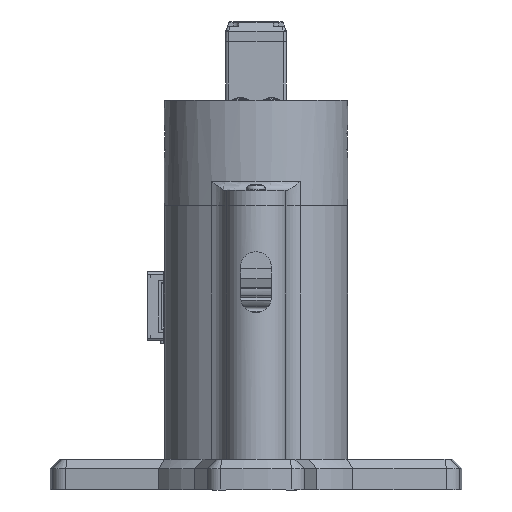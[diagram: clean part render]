
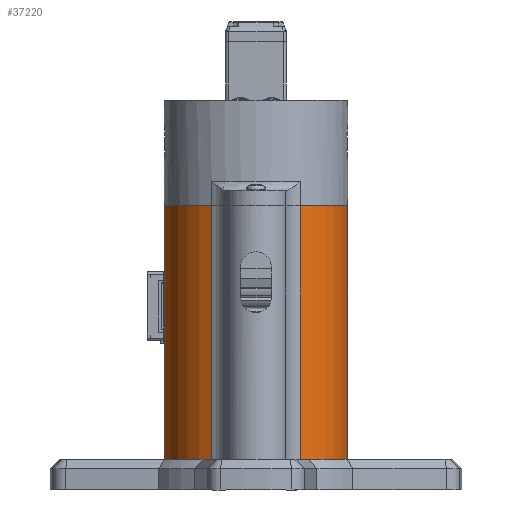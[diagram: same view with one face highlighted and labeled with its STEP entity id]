
A CAD part, left-side view. The second image highlights one B-rep face of the part: STEP entity #37220.
In plain terms, the highlighted cylindrical face has radius 30 mm (diameter 60 mm), a partial arc.
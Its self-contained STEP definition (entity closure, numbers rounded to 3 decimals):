
#2060=FACE_BOUND('',#5182,.T.);
#2351=B_SPLINE_CURVE_WITH_KNOTS('',3,(#53311,#53312,#53313,#53314,#53315,
#53316,#53317,#53318,#53319,#53320),.UNSPECIFIED.,.F.,.F.,(4,2,2,2,4),(0.755,
0.944,1.132,1.321,1.51),
 .UNSPECIFIED.);
#2352=B_SPLINE_CURVE_WITH_KNOTS('',3,(#53322,#53323,#53324,#53325,#53326,
#53327,#53328,#53329,#53330,#53331),.UNSPECIFIED.,.F.,.F.,(4,2,2,2,4),(1.51,
1.699,1.887,2.076,2.265),
 .UNSPECIFIED.);
#2353=B_SPLINE_CURVE_WITH_KNOTS('',3,(#53338,#53339,#53340,#53341,#53342,
#53343,#53344,#53345,#53346,#53347),.UNSPECIFIED.,.F.,.F.,(4,2,2,2,4),(1.51,
1.699,1.887,2.076,2.265),
 .UNSPECIFIED.);
#2354=B_SPLINE_CURVE_WITH_KNOTS('',3,(#53348,#53349,#53350,#53351,#53352,
#53353,#53354,#53355,#53356,#53357),.UNSPECIFIED.,.F.,.F.,(4,2,2,2,4),(-0.755,
-0.566,-0.377,-0.189,0.),
 .UNSPECIFIED.);
#3233=FACE_OUTER_BOUND('',#5181,.T.);
#5181=EDGE_LOOP('',(#25350,#25351,#25352,#25353));
#5182=EDGE_LOOP('',(#25354,#25355,#25356,#25357,#25358,#25359));
#7402=LINE('',#53307,#10737);
#7404=LINE('',#53334,#10739);
#7416=LINE('',#53429,#10751);
#7418=LINE('',#53437,#10753);
#10737=VECTOR('',#43096,10.);
#10739=VECTOR('',#43102,10.);
#10751=VECTOR('',#43134,10.);
#10753=VECTOR('',#43144,10.);
#14061=CIRCLE('',#39603,30.);
#14083=CIRCLE('',#39647,30.);
#15469=VERTEX_POINT('',#53207);
#15470=VERTEX_POINT('',#53208);
#15489=VERTEX_POINT('',#53303);
#15490=VERTEX_POINT('',#53305);
#15491=VERTEX_POINT('',#53309);
#15492=VERTEX_POINT('',#53310);
#15493=VERTEX_POINT('',#53333);
#15494=VERTEX_POINT('',#53337);
#15505=VERTEX_POINT('',#53425);
#15508=VERTEX_POINT('',#53435);
#19496=EDGE_CURVE('',#15469,#15470,#14061,.T.);
#19528=EDGE_CURVE('',#15489,#15490,#7402,.T.);
#19529=EDGE_CURVE('',#15491,#15492,#2351,.T.);
#19531=EDGE_CURVE('',#15489,#15491,#2352,.T.);
#19532=EDGE_CURVE('',#15493,#15492,#7404,.T.);
#19534=EDGE_CURVE('',#15493,#15494,#2353,.T.);
#19535=EDGE_CURVE('',#15494,#15490,#2354,.T.);
#19553=EDGE_CURVE('',#15470,#15505,#7416,.T.);
#19557=EDGE_CURVE('',#15508,#15469,#7418,.T.);
#19558=EDGE_CURVE('',#15508,#15505,#14083,.T.);
#25350=ORIENTED_EDGE('',*,*,#19553,.F.);
#25351=ORIENTED_EDGE('',*,*,#19496,.F.);
#25352=ORIENTED_EDGE('',*,*,#19557,.F.);
#25353=ORIENTED_EDGE('',*,*,#19558,.T.);
#25354=ORIENTED_EDGE('',*,*,#19531,.F.);
#25355=ORIENTED_EDGE('',*,*,#19528,.T.);
#25356=ORIENTED_EDGE('',*,*,#19535,.F.);
#25357=ORIENTED_EDGE('',*,*,#19534,.F.);
#25358=ORIENTED_EDGE('',*,*,#19532,.T.);
#25359=ORIENTED_EDGE('',*,*,#19529,.F.);
#36678=CYLINDRICAL_SURFACE('',#39646,30.);
#37220=ADVANCED_FACE('',(#3233,#2060),#36678,.T.);
#39603=AXIS2_PLACEMENT_3D('',#53209,#43031,#43032);
#39646=AXIS2_PLACEMENT_3D('',#53438,#43145,#43146);
#39647=AXIS2_PLACEMENT_3D('',#53439,#43147,#43148);
#43031=DIRECTION('center_axis',(0.,0.,1.));
#43032=DIRECTION('ref_axis',(1.,0.,0.));
#43096=DIRECTION('',(0.,0.,1.));
#43102=DIRECTION('',(0.,0.,-1.));
#43134=DIRECTION('',(0.,0.,-1.));
#43144=DIRECTION('',(0.,0.,1.));
#43145=DIRECTION('center_axis',(0.,0.,1.));
#43146=DIRECTION('ref_axis',(0.,-1.,0.));
#43147=DIRECTION('center_axis',(0.,0.,1.));
#43148=DIRECTION('ref_axis',(1.,0.,0.));
#53207=CARTESIAN_POINT('',(-14.524,26.25,83.));
#53208=CARTESIAN_POINT('',(14.524,26.25,83.));
#53209=CARTESIAN_POINT('Origin',(0.,0.,83.));
#53303=CARTESIAN_POINT('',(-5.,-29.58,20.));
#53305=CARTESIAN_POINT('',(-5.,-29.58,30.));
#53307=CARTESIAN_POINT('',(-5.,-29.58,0.));
#53309=CARTESIAN_POINT('',(0.,-30.,15.));
#53310=CARTESIAN_POINT('',(5.,-29.58,20.));
#53311=CARTESIAN_POINT('Ctrl Pts',(0.,-30.,15.));
#53312=CARTESIAN_POINT('Ctrl Pts',(0.629,-30.,15.));
#53313=CARTESIAN_POINT('Ctrl Pts',(1.299,-29.978,15.126));
#53314=CARTESIAN_POINT('Ctrl Pts',(2.531,-29.899,15.637));
#53315=CARTESIAN_POINT('Ctrl Pts',(3.092,-29.844,16.021));
#53316=CARTESIAN_POINT('Ctrl Pts',(3.979,-29.738,16.908));
#53317=CARTESIAN_POINT('Ctrl Pts',(4.363,-29.682,17.469));
#53318=CARTESIAN_POINT('Ctrl Pts',(4.874,-29.603,18.701));
#53319=CARTESIAN_POINT('Ctrl Pts',(5.,-29.58,19.371));
#53320=CARTESIAN_POINT('Ctrl Pts',(5.,-29.58,20.));
#53322=CARTESIAN_POINT('Ctrl Pts',(-5.,-29.58,20.));
#53323=CARTESIAN_POINT('Ctrl Pts',(-5.,-29.58,19.371));
#53324=CARTESIAN_POINT('Ctrl Pts',(-4.874,-29.603,
18.701));
#53325=CARTESIAN_POINT('Ctrl Pts',(-4.363,-29.682,
17.469));
#53326=CARTESIAN_POINT('Ctrl Pts',(-3.979,-29.738,
16.908));
#53327=CARTESIAN_POINT('Ctrl Pts',(-3.092,-29.844,
16.021));
#53328=CARTESIAN_POINT('Ctrl Pts',(-2.531,-29.899,
15.637));
#53329=CARTESIAN_POINT('Ctrl Pts',(-1.299,-29.978,15.126));
#53330=CARTESIAN_POINT('Ctrl Pts',(-0.629,-30.,15.));
#53331=CARTESIAN_POINT('Ctrl Pts',(0.,-30.,15.));
#53333=CARTESIAN_POINT('',(5.,-29.58,30.));
#53334=CARTESIAN_POINT('',(5.,-29.58,0.));
#53337=CARTESIAN_POINT('',(0.,-30.,35.));
#53338=CARTESIAN_POINT('Ctrl Pts',(5.,-29.58,30.));
#53339=CARTESIAN_POINT('Ctrl Pts',(5.,-29.58,30.629));
#53340=CARTESIAN_POINT('Ctrl Pts',(4.874,-29.603,31.299));
#53341=CARTESIAN_POINT('Ctrl Pts',(4.363,-29.682,32.531));
#53342=CARTESIAN_POINT('Ctrl Pts',(3.979,-29.738,33.092));
#53343=CARTESIAN_POINT('Ctrl Pts',(3.092,-29.844,33.979));
#53344=CARTESIAN_POINT('Ctrl Pts',(2.531,-29.899,34.363));
#53345=CARTESIAN_POINT('Ctrl Pts',(1.299,-29.978,34.874));
#53346=CARTESIAN_POINT('Ctrl Pts',(0.629,-30.,35.));
#53347=CARTESIAN_POINT('Ctrl Pts',(0.,-30.,35.));
#53348=CARTESIAN_POINT('Ctrl Pts',(0.,-30.,35.));
#53349=CARTESIAN_POINT('Ctrl Pts',(-0.629,-30.,35.));
#53350=CARTESIAN_POINT('Ctrl Pts',(-1.299,-29.978,34.874));
#53351=CARTESIAN_POINT('Ctrl Pts',(-2.531,-29.899,
34.363));
#53352=CARTESIAN_POINT('Ctrl Pts',(-3.092,-29.844,
33.979));
#53353=CARTESIAN_POINT('Ctrl Pts',(-3.979,-29.738,
33.092));
#53354=CARTESIAN_POINT('Ctrl Pts',(-4.363,-29.682,
32.531));
#53355=CARTESIAN_POINT('Ctrl Pts',(-4.874,-29.603,
31.299));
#53356=CARTESIAN_POINT('Ctrl Pts',(-5.,-29.58,30.629));
#53357=CARTESIAN_POINT('Ctrl Pts',(-5.,-29.58,30.));
#53425=CARTESIAN_POINT('',(14.524,26.25,0.));
#53429=CARTESIAN_POINT('',(14.524,26.25,0.));
#53435=CARTESIAN_POINT('',(-14.524,26.25,0.));
#53437=CARTESIAN_POINT('',(-14.524,26.25,0.));
#53438=CARTESIAN_POINT('Origin',(0.,0.,0.));
#53439=CARTESIAN_POINT('Origin',(0.,0.,0.));
